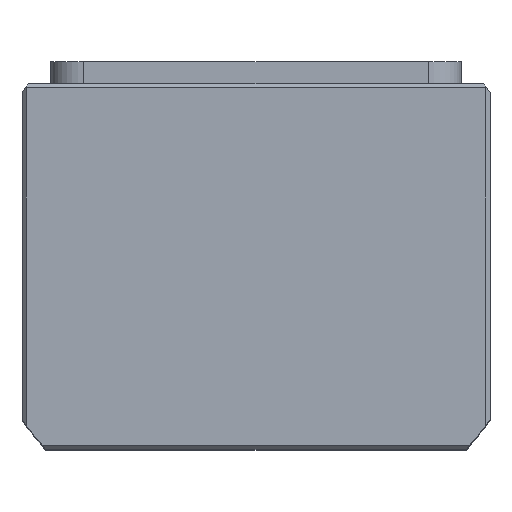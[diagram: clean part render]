
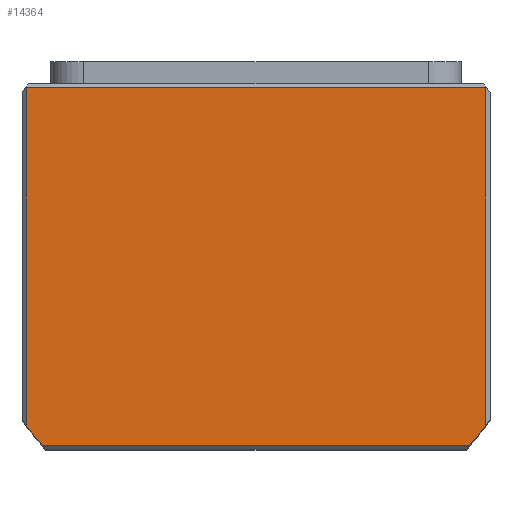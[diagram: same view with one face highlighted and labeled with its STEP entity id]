
A CAD part, top view. The second image highlights one B-rep face of the part: STEP entity #14364.
In plain terms, the highlighted planar face has unit normal (0, 0, 1) as drawn and (0, 0, -1) by its records, which use the part's own axes.
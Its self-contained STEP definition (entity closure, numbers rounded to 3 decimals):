
#159 = VERTEX_POINT ( 'NONE', #13540 ) ;
#383 = CARTESIAN_POINT ( 'NONE',  ( 0., -2.5, 0. ) ) ;
#893 = CARTESIAN_POINT ( 'NONE',  ( -56., -43.5, 0. ) ) ;
#1399 = VECTOR ( 'NONE', #2481, 1000. ) ;
#1864 = DIRECTION ( 'NONE',  ( 1., 0., 0. ) ) ;
#2180 = CARTESIAN_POINT ( 'NONE',  ( 56., 38.661, 0. ) ) ;
#2227 = DIRECTION ( 'NONE',  ( 1., 0., 0. ) ) ;
#2481 = DIRECTION ( 'NONE',  ( 0., 1., 0. ) ) ;
#2569 = VECTOR ( 'NONE', #11797, 1000. ) ;
#2575 = CARTESIAN_POINT ( 'NONE',  ( 0., 0., 0. ) ) ;
#2638 = VERTEX_POINT ( 'NONE', #893 ) ;
#3300 = VERTEX_POINT ( 'NONE', #9886 ) ;
#4057 = DIRECTION ( 'NONE',  ( 0., 0., 1. ) ) ;
#4146 = EDGE_CURVE ( 'NONE', #9547, #3300, #11256, .T. ) ;
#4845 = LINE ( 'NONE', #12705, #1399 ) ;
#4903 = FACE_OUTER_BOUND ( 'NONE', #7494, .T. ) ;
#4976 = CIRCLE ( 'NONE', #15734, 69.5 ) ;
#5007 = CARTESIAN_POINT ( 'NONE',  ( 0., -43.5, 0. ) ) ;
#5034 = VERTEX_POINT ( 'NONE', #17986 ) ;
#5044 = CARTESIAN_POINT ( 'NONE',  ( 0., 43.5, 0. ) ) ;
#6762 = ORIENTED_EDGE ( 'NONE', *, *, #19145, .F. ) ;
#6919 = LINE ( 'NONE', #5007, #2569 ) ;
#7202 = CARTESIAN_POINT ( 'NONE',  ( 0., -2.5, 0. ) ) ;
#7404 = EDGE_CURVE ( 'NONE', #5034, #2638, #6919, .T. ) ;
#7494 = EDGE_LOOP ( 'NONE', ( #15934, #14342, #13407, #8142, #6762, #15017 ) ) ;
#7798 = CARTESIAN_POINT ( 'NONE',  ( -56., 38.661, 0. ) ) ;
#8142 = ORIENTED_EDGE ( 'NONE', *, *, #8586, .T. ) ;
#8473 = AXIS2_PLACEMENT_3D ( 'NONE', #7202, #17505, #8670 ) ;
#8566 = VECTOR ( 'NONE', #11814, 1000. ) ;
#8586 = EDGE_CURVE ( 'NONE', #2638, #8839, #4845, .T. ) ;
#8670 = DIRECTION ( 'NONE',  ( 1., 0., 0. ) ) ;
#8839 = VERTEX_POINT ( 'NONE', #7798 ) ;
#8881 = CARTESIAN_POINT ( 'NONE',  ( 56., 0., 0. ) ) ;
#9547 = VERTEX_POINT ( 'NONE', #2180 ) ;
#9886 = CARTESIAN_POINT ( 'NONE',  ( 52.098, 43.5, 0. ) ) ;
#10642 = DIRECTION ( 'NONE',  ( 0., 0., 1. ) ) ;
#10686 = EDGE_CURVE ( 'NONE', #159, #3300, #17601, .T. ) ;
#11256 = CIRCLE ( 'NONE', #8473, 69.5 ) ;
#11797 = DIRECTION ( 'NONE',  ( -1., 0., 0. ) ) ;
#11814 = DIRECTION ( 'NONE',  ( 0., -1., 0. ) ) ;
#12705 = CARTESIAN_POINT ( 'NONE',  ( -56., 0., 0. ) ) ;
#13407 = ORIENTED_EDGE ( 'NONE', *, *, #7404, .T. ) ;
#13540 = CARTESIAN_POINT ( 'NONE',  ( -52.098, 43.5, 0. ) ) ;
#13602 = EDGE_CURVE ( 'NONE', #9547, #5034, #17803, .T. ) ;
#13652 = VECTOR ( 'NONE', #2227, 1000. ) ;
#14281 = DIRECTION ( 'NONE',  ( 1., 0., 0. ) ) ;
#14342 = ORIENTED_EDGE ( 'NONE', *, *, #13602, .T. ) ;
#14364 = ADVANCED_FACE ( 'NONE', ( #4903 ), #15594, .F. ) ;
#15017 = ORIENTED_EDGE ( 'NONE', *, *, #10686, .T. ) ;
#15594 = PLANE ( 'NONE',  #18982 ) ;
#15734 = AXIS2_PLACEMENT_3D ( 'NONE', #383, #10642, #1864 ) ;
#15934 = ORIENTED_EDGE ( 'NONE', *, *, #4146, .F. ) ;
#17505 = DIRECTION ( 'NONE',  ( 0., 0., 1. ) ) ;
#17601 = LINE ( 'NONE', #5044, #13652 ) ;
#17803 = LINE ( 'NONE', #8881, #8566 ) ;
#17986 = CARTESIAN_POINT ( 'NONE',  ( 56., -43.5, 0. ) ) ;
#18982 = AXIS2_PLACEMENT_3D ( 'NONE', #2575, #4057, #14281 ) ;
#19145 = EDGE_CURVE ( 'NONE', #159, #8839, #4976, .T. ) ;
